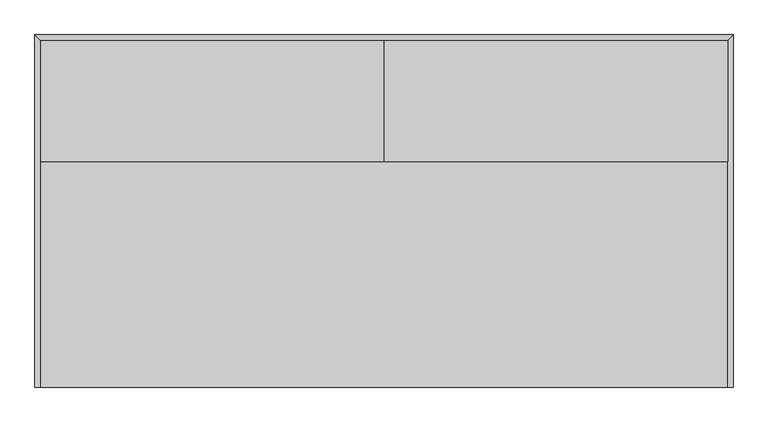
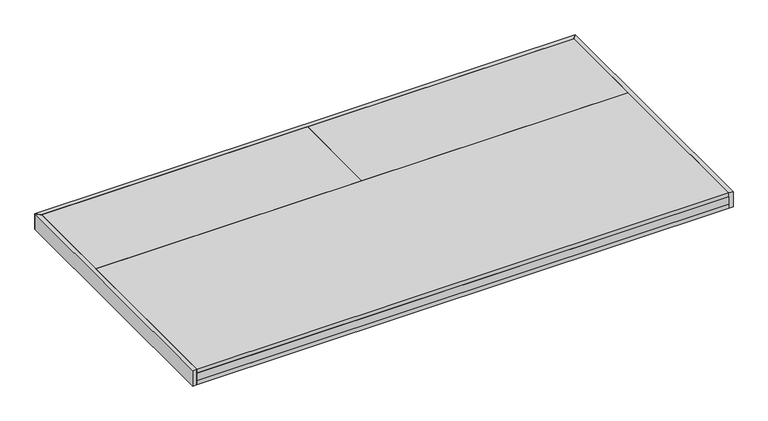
"""IFC4 building model written with IfcOpenShell, lengths in millimetres: proxy geometry, ELEVATE^ADMIN_99x50 DIVIDER WALL-TACK 2 SIDES."""

import ifcopenshell
import ifcopenshell.guid

model = None  # the IFC model being written
_history = None  # IfcOwnerHistory: only IFC2X3 demands one
_inside = {}  # id of a spatial element -> (the spatial element, [elements in it])
_under = {}  # id of a project, library or spatial element -> (it, [spatial elements below it])
_declared = {}  # id of a project -> (the project, [libraries it declares])
_typed = {}  # id of a type object -> (the type object, [elements of that type])
_made_of = {}  # id of a material, layer set ... -> (it, [elements and type objects made of it])


def new_model(schema):
    """Start an empty IFC model of exactly this schema.

    Asked for "IFC4X3", IfcOpenShell would pick the latest addendum, in which some entities
    have other attributes; the version numbers below select the first issue.
    IFC2X3 requires an IfcOwnerHistory on every rooted entity: one is made here for all.
    """
    global model, _history
    if schema == "IFC4X3":
        model = ifcopenshell.file(schema_version=(4, 3, 0, 0))
    else:
        model = ifcopenshell.file(schema=schema)
    _inside.clear()
    _under.clear()
    _declared.clear()
    _typed.clear()
    _made_of.clear()
    _history = None
    if model.schema == "IFC2X3":
        org = make("IfcOrganization", Name="unknown")
        user = make(
            "IfcPersonAndOrganization",
            ThePerson=make("IfcPerson", FamilyName="unknown"),
            TheOrganization=org,
        )
        app = make(
            "IfcApplication",
            ApplicationDeveloper=org,
            Version="unknown",
            ApplicationFullName="unknown",
            ApplicationIdentifier="unknown",
        )
        _history = make(
            "IfcOwnerHistory",
            OwningUser=user,
            OwningApplication=app,
            ChangeAction="ADDED",
            CreationDate=0,
        )
    return model


def make(cls, **values):
    """One entity of the class cls with the attributes given. An attribute that is None is left unset."""
    return model.create_entity(
        cls, **{name: value for name, value in values.items() if value is not None}
    )


def rooted(cls, **values):
    """An entity with a GlobalId (a new one), such as an element, a storey or a relation."""
    return make(cls, GlobalId=ifcopenshell.guid.new(), OwnerHistory=_history, **values)


def si_unit(unit_type, name, prefix=None):
    """IfcSIUnit, for example si_unit("LENGTHUNIT", "METRE", prefix="MILLI")."""
    return make("IfcSIUnit", UnitType=unit_type, Prefix=prefix, Name=name)


def assignment(units):
    """IfcUnitAssignment: the units of a project."""
    return None if units is None else make("IfcUnitAssignment", Units=units)


def point(xyz):
    """IfcCartesianPoint."""
    return None if xyz is None else make("IfcCartesianPoint", Coordinates=xyz)


def direction(xyz):
    """IfcDirection."""
    return None if xyz is None else make("IfcDirection", DirectionRatios=xyz)


def frame(location, z_axis=None, x_axis=None):
    """IfcAxis2Placement3D, a coordinate frame: its origin and axes. An axis left out is left unset."""
    return make(
        "IfcAxis2Placement3D",
        Location=point(location),
        Axis=direction(z_axis),
        RefDirection=direction(x_axis),
    )


def origin():
    """The frame at (0, 0, 0) with its axes left unset."""
    return frame((0.0, 0.0, 0.0))


def origin_with_axes():
    """The frame at (0, 0, 0) with the z axis (0, 0, 1) and the x axis (1, 0, 0) written out."""
    return frame((0.0, 0.0, 0.0), z_axis=(0.0, 0.0, 1.0), x_axis=(1.0, 0.0, 0.0))


def place(relative_to, where):
    """IfcLocalPlacement: puts the frame where relative to a parent placement (None: the world)."""
    return make(
        "IfcLocalPlacement", PlacementRelTo=relative_to, RelativePlacement=where
    )


def context(
    kind, dimensions, precision=None, world=None, true_north=None, identifier=None
):
    """IfcGeometricRepresentationContext, for example the 3D "Model" context."""
    return make(
        "IfcGeometricRepresentationContext",
        ContextIdentifier=identifier,
        ContextType=kind,
        CoordinateSpaceDimension=dimensions,
        Precision=precision,
        WorldCoordinateSystem=world,
        TrueNorth=true_north,
    )


def project(units=None, contexts=None):
    """IfcProject with its units and contexts."""
    return rooted(
        "IfcProject",
        Name="project",
        RepresentationContexts=contexts,
        UnitsInContext=assignment(units),
    )


def spatial(cls, under=None, at=None, **own):
    """A site, building, storey or space (cls), placed at a placement, below another one or the project."""
    s = rooted(cls, ObjectPlacement=at, **own)
    if under is not None:
        _under.setdefault(under.id(), (under, []))[1].append(s)
    return s


def polyline(points):
    """IfcPolyline through the points."""
    return make("IfcPolyline", Points=[point(p) for p in points])


def outline(outer, holes=None, kind="AREA"):
    """IfcArbitraryClosedProfileDef: a profile drawn as a closed curve; with holes, ...WithVoids."""
    if holes is None:
        return make("IfcArbitraryClosedProfileDef", ProfileType=kind, OuterCurve=outer)
    return make(
        "IfcArbitraryProfileDefWithVoids",
        ProfileType=kind,
        OuterCurve=outer,
        InnerCurves=holes,
    )


def extrude(swept, where, along, depth):
    """IfcExtrudedAreaSolid: the profile swept, set in the frame where, extruded along a direction by depth."""
    return make(
        "IfcExtrudedAreaSolid",
        SweptArea=swept,
        Position=where,
        ExtrudedDirection=direction(along),
        Depth=depth,
    )


def shape(context_of_items, identifier, shape_type, items):
    """IfcShapeRepresentation: the items that make up one representation, for example the "Body"."""
    return make(
        "IfcShapeRepresentation",
        ContextOfItems=context_of_items,
        RepresentationIdentifier=identifier,
        RepresentationType=shape_type,
        Items=items,
    )


def source(mapping_origin, context_of_items, identifier, shape_type, items):
    """IfcRepresentationMap: a shape defined once, which mapped items show again and again."""
    return make(
        "IfcRepresentationMap",
        MappingOrigin=mapping_origin,
        MappedRepresentation=shape(context_of_items, identifier, shape_type, items),
    )


def transform(
    local_origin,
    x_axis=None,
    y_axis=None,
    z_axis=None,
    scale=None,
    scale2=None,
    scale3=None,
    uniform=True,
):
    """IfcCartesianTransformationOperator3D, or its non-uniform kind. x_axis, y_axis, z_axis: its Axis1, 2, 3."""
    if uniform:
        return make(
            "IfcCartesianTransformationOperator3D",
            Axis1=direction(x_axis),
            Axis2=direction(y_axis),
            LocalOrigin=point(local_origin),
            Scale=scale,
            Axis3=direction(z_axis),
        )
    return make(
        "IfcCartesianTransformationOperator3DnonUniform",
        Axis1=direction(x_axis),
        Axis2=direction(y_axis),
        LocalOrigin=point(local_origin),
        Scale=scale,
        Axis3=direction(z_axis),
        Scale2=scale2,
        Scale3=scale3,
    )


def mapped(mapping_source, mapping_target):
    """IfcMappedItem: shows the shape of a source again, moved by a transform."""
    return make(
        "IfcMappedItem", MappingSource=mapping_source, MappingTarget=mapping_target
    )


def made_of(thing, what):
    """Note that an element or type object is made of a material, layer set ...; save() writes the relation."""
    if what is not None:
        _made_of.setdefault(what.id(), (what, []))[1].append(thing)
    return thing


def element(
    cls,
    number,
    at=None,
    inside=None,
    cuts=None,
    type_object=None,
    material=None,
    context=None,
    identifier="Body",
    shape_type=None,
    held_by="IfcProductDefinitionShape",
    body=None,
    shapes=None,
    **own,
):
    """One element of the class cls, such as IfcWall. Its Tag is "e" and its number.

    at: its placement. inside: the storey or other place that contains it. cuts: it is an
    opening in that element (IfcRelVoidsElement). A single representation is given by context,
    identifier, shape_type and body (its items); several are given by shapes. held_by: the class
    of the entity that holds the representations. save() writes the other relations.
    """
    e = rooted(cls, Tag="e%d" % number, ObjectPlacement=at, **own)
    if body is not None:
        shapes = [shape(context, identifier, shape_type, body)]
    if shapes is not None:
        e.Representation = make(held_by, Representations=shapes)
    if inside is not None:
        _inside.setdefault(inside.id(), (inside, []))[1].append(e)
    if cuts is not None:
        rooted(
            "IfcRelVoidsElement", RelatingBuildingElement=cuts, RelatedOpeningElement=e
        )
    if type_object is not None:
        _typed.setdefault(type_object.id(), (type_object, []))[1].append(e)
    return made_of(e, material)


def aggregate(whole, parts):
    """IfcRelAggregates: a whole, such as a stair, and the parts it consists of."""
    return rooted("IfcRelAggregates", RelatingObject=whole, RelatedObjects=parts)


def save(model, path):
    """Write the relations noted so far, then the file.

    IfcRelAggregates (storeys below a building ...), IfcRelContainedInSpatialStructure (elements
    in a storey), IfcRelDefinesByType, IfcRelAssociatesMaterial and IfcRelDeclares: one each for
    every whole, place, type object, material and project.
    """
    for whole, parts in _under.values():
        aggregate(whole, parts)
    for where, things in _inside.values():
        rooted(
            "IfcRelContainedInSpatialStructure",
            RelatedElements=things,
            RelatingStructure=where,
        )
    for kind, things in _typed.values():
        rooted("IfcRelDefinesByType", RelatedObjects=things, RelatingType=kind)
    for what, things in _made_of.values():
        rooted("IfcRelAssociatesMaterial", RelatedObjects=things, RelatingMaterial=what)
    for by, libraries in _declared.values():
        rooted("IfcRelDeclares", RelatingContext=by, RelatedDefinitions=libraries)
    model.write(path)


def generic_models_86f6b748(model_context):
    return source(origin(), model_context, "Body", "SweptSolid", [
        extrude(outline(polyline([(0.0, 1250.95), (-19.05, 1270.0), (2495.55, 1270.0), (2476.5, 1250.95), (0.0, 1250.95)])), frame((0.0, 0.0, -57.15), z_axis=(0.0, 0.0, 1.0), x_axis=(1.0, 0.0, 0.0)), (0.0, 0.0, 1.0), 76.2),
        extrude(outline(polyline([(0.0, 0.0), (0.0, 812.8), (2476.5, 812.8), (2476.5, 0.0), (0.0, 0.0)])), frame((0.0, 0.0, -57.15), z_axis=(0.0, 0.0, 1.0), x_axis=(1.0, 0.0, 0.0)), (0.0, 0.0, 1.0), 19.05),
        extrude(outline(polyline([(1238.646875, 1250.15625), (2475.70625, 1250.15625), (2475.70625, 813.59375), (1238.646875, 813.59375), (1238.646875, 1250.15625)])), origin_with_axes(), (0.0, 0.0, 1.0), 19.05),
        extrude(outline(polyline([(2476.5, 0.0), (0.0, 0.0), (0.0, 1250.95), (2476.5, 1250.95), (2476.5, 0.0)])), frame((0.0, 0.0, -38.1), z_axis=(0.0, 0.0, 1.0), x_axis=(1.0, 0.0, 0.0)), (0.0, 0.0, 1.0), 38.1),
        extrude(outline(polyline([(-19.05, 1270.0), (0.0, 1250.95), (0.0, 0.0), (-19.05, 0.0), (-19.05, 1270.0)])), frame((0.0, 0.0, -57.15), z_axis=(0.0, 0.0, 1.0), x_axis=(1.0, 0.0, 0.0)), (0.0, 0.0, 1.0), 76.2),
        extrude(outline(polyline([(2476.5, 1250.95), (2495.55, 1270.0), (2495.55, 0.0), (2476.5, 0.0), (2476.5, 1250.95)])), frame((0.0, 0.0, -57.15), z_axis=(0.0, 0.0, 1.0), x_axis=(1.0, 0.0, 0.0)), (0.0, 0.0, 1.0), 76.2),
        extrude(outline(polyline([(2475.70625, 813.59375), (1238.646875, 813.59375), (1238.646875, 1250.15625), (2475.70625, 1250.15625), (2475.70625, 813.59375)])), frame((0.0, 0.0, -57.15), z_axis=(0.0, 0.0, 1.0), x_axis=(1.0, 0.0, 0.0)), (0.0, 0.0, 1.0), 19.05),
        extrude(outline(polyline([(0.79375, 1250.15625), (1237.853125, 1250.15625), (1237.853125, 813.59375), (0.79375, 813.59375), (0.79375, 1250.15625)])), origin_with_axes(), (0.0, 0.0, 1.0), 19.05),
        extrude(outline(polyline([(2476.5, 812.8), (2476.5, 0.0), (0.0, 0.0), (0.0, 812.8), (2476.5, 812.8)])), origin_with_axes(), (0.0, 0.0, 1.0), 19.05),
        extrude(outline(polyline([(1237.853125, 813.59375), (0.79375, 813.59375), (0.79375, 1250.15625), (1237.853125, 1250.15625), (1237.853125, 813.59375)])), frame((0.0, 0.0, -57.15), z_axis=(0.0, 0.0, 1.0), x_axis=(1.0, 0.0, 0.0)), (0.0, 0.0, 1.0), 19.05),
    ])


if __name__ == "__main__":
    model = new_model("IFC4")
    model_context = context("Model", 3, world=origin())
    ifc_project = project(units=[si_unit("LENGTHUNIT", "METRE", prefix="MILLI")], contexts=[model_context])
    site = spatial("IfcSite", under=ifc_project)
    building = spatial("IfcBuilding", under=site)
    placement = place(None, origin())
    generic_models_shape = generic_models_86f6b748(model_context)
    element("IfcBuildingElementProxy", 1, Name="ELEVATE^ADMIN_99x50 DIVIDER WALL-TACK 2 SIDES", ObjectType="ELEVATE^ADMIN_99x50 DIVIDER WALL-TACK 2 SIDES", at=placement, inside=building, context=model_context, shape_type="MappedRepresentation", body=[
        mapped(generic_models_shape, transform((0.0, 0.0, 0.0), x_axis=(1.0, 0.0, 0.0), y_axis=(0.0, 1.0, 0.0), z_axis=(0.0, 0.0, 1.0))),
    ])
    save(model, "model.ifc")
